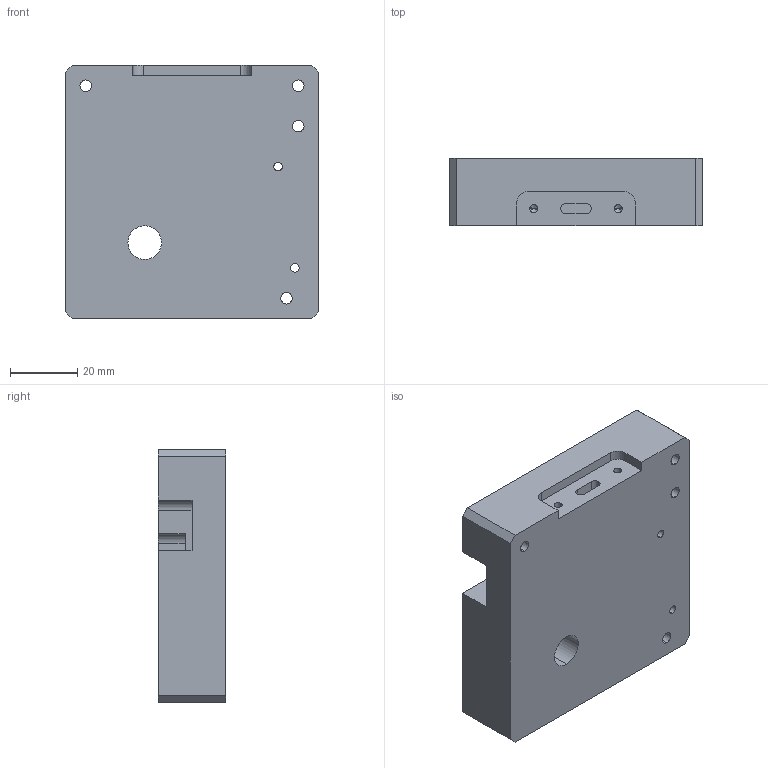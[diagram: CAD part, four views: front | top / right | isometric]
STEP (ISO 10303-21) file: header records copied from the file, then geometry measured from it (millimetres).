
FILE_DESCRIPTION (( 'STEP AP214' ), '1' );
FILE_NAME ('sample.meviy_machining_01.STEP', '2025-05-30T14:55:46', ( '' ), ( '' ), 'SwSTEP 2.0', 'SolidWorks 2023', '' );
FILE_SCHEMA (( 'AUTOMOTIVE_DESIGN' ));
Length unit declared in the file: millimetre
Products named in the file (1): sample.meviy_machining_01
Bounding box: 75 x 20 x 75 mm (x, y, z)
Volume: 85170.6 mm3; surface area: 20975.1 mm2
Topology: 1 solids, 1 shells, 89 faces, 229 edges, 142 vertices
Faces by surface type: cylinder 44, plane 31, cone 14
Entity records: 2688 total; most frequent: DIRECTION 487, CARTESIAN_POINT 449, ORIENTED_EDGE 434, EDGE_CURVE 217, AXIS2_PLACEMENT_3D 180, VERTEX_POINT 142, LINE 127, VECTOR 127
